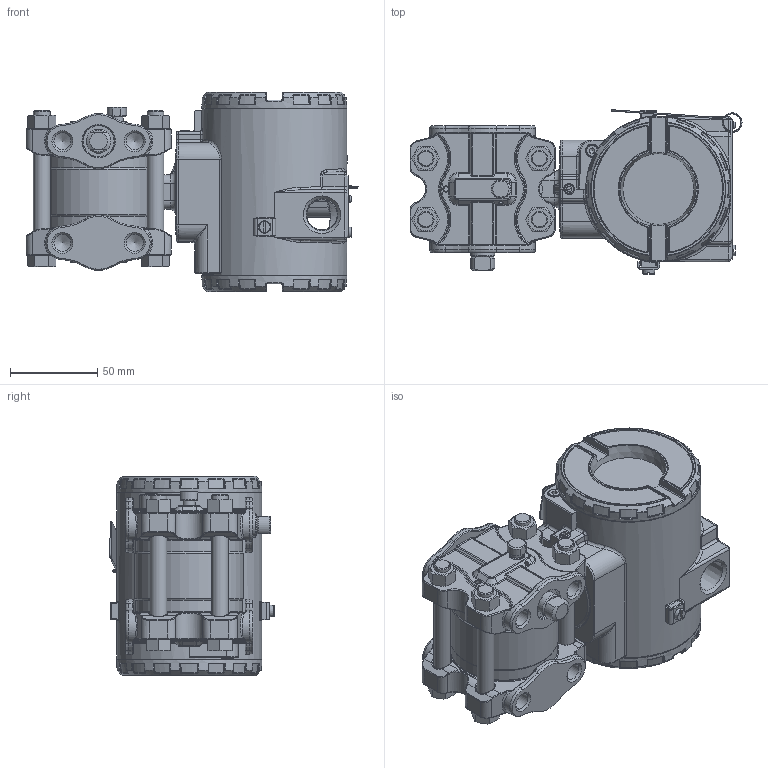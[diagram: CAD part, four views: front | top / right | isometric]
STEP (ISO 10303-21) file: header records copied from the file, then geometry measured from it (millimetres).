
FILE_DESCRIPTION(/* description */ (''),/* implementation_level */ '2;1');
FILE_NAME(/* name */ 'F:\Area\Desenvolvimento_2\Projects\Sensor\projetos\LD30X\montagens 3d - clientes\LD30XM5 1-4NPT purga acima.stp',/* time_stamp */ '2023-01-27T10:32:52-03:00',/* author */ ('inventor02'),/* organization */ (''),/* preprocessor_version */ 'ST-DEVELOPER v17',/* originating_system */ 'Autodesk Inventor 2019',/* authorisation */ '');
FILE_SCHEMA (('CONFIG_CONTROL_DESIGN'));
Length unit declared in the file: millimetre
Products named in the file (30): LD30XM5 1-4NPT purga acima; manometrico standard fx5 purga acima; flange batente standard; flange diferencial std purga; bujao 1-4NPT; Sangria; Paraf. 3-8 x 16 UNC; Porca 3-8 x 16 UNC; involucro fx5 apos a usinagem final; carcaça vazia com tampas e plaqueta; carcaça LD inox sem letras; Subconjunto plaqueta 300; Plaqueta transmissor; Parafuso da Plaqueta; Rebite da Plaqueta; 096-A-0169-03; 101-A-0502-01; Chapa aterramento externo; ISO 1207 - M4 x 8; DIN 915 - M6 x 10; ANSI B18.3.1M - M4x0,7 x 8; Subconjunto tampa com visor aluminio; tampa pintada; VIDRO DO VISOR; oring 41x1 vidro tampa; Trava do vidro da tampa com visor; trava do vidro VH256; Subconjunto tampa sem visor-aluminio; tampa cega 300 pintada p0; 00034775-0
Assembly tree (37 placements, depth 4):
  LD30XM5 1-4NPT purga acima
    manometrico standard fx5 purga acima
      flange batente standard
      flange diferencial std purga
      bujao 1-4NPT
      Sangria
      Paraf. 3-8 x 16 UNC  x4
      Porca 3-8 x 16 UNC  x4
      involucro fx5 apos a usinagem final
    carcaça vazia com tampas e plaqueta
      carcaça LD inox sem letras
      Subconjunto plaqueta 300
        Plaqueta transmissor
        Parafuso da Plaqueta
        Rebite da Plaqueta
        096-A-0169-03
        101-A-0502-01
      Chapa aterramento externo
      ISO 1207 - M4 x 8
      DIN 915 - M6 x 10
      ANSI B18.3.1M - M4x0,7 x 8  x2
      Subconjunto tampa com visor aluminio
        tampa pintada
        VIDRO DO VISOR
        oring 41x1 vidro tampa
        Trava do vidro da tampa com visor
        trava do vidro VH256
        00034775-0
      Subconjunto tampa sem visor-aluminio
        tampa cega 300 pintada p0
        00034775-0
Bounding box: 189.78 x 93.95 x 114 mm (x, y, z)
Volume: 590773.5 mm3; surface area: 229061.9 mm2
Topology: 32 solids, 32 shells, 2543 faces, 6072 edges, 3554 vertices
Faces by surface type: bspline 675, cylinder 613, plane 479, torus 438, cone 217, sphere 121
Full cylindrical faces by diameter (mm): 2 x3, 2.1 x2, 2.459 x5, 2.642 x1, 2.7 x1, 3 x3, 3.242 x4, 3.5 x4, 3.571 x1, 4 x4, 4.3 x1, 4.4 x1, 4.917 x1, 5.5 x4, 6 x2, 6.647 x1, 7 x5, 7.087 x2, 7.6 x2, 7.798 x4, 8 x1, 8.7 x2, 9.525 x4, 9.728 x8, 10.5 x8, 10.719 x2, 13.8 x1, 14 x1, 17.475 x2, 18.5 x2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
Entity records: 89084 total; most frequent: CARTESIAN_POINT 33430, ORIENTED_EDGE 11572, DIRECTION 11421, EDGE_CURVE 5786, AXIS2_PLACEMENT_3D 5023, VERTEX_POINT 3428, CIRCLE 2958, EDGE_LOOP 2558
